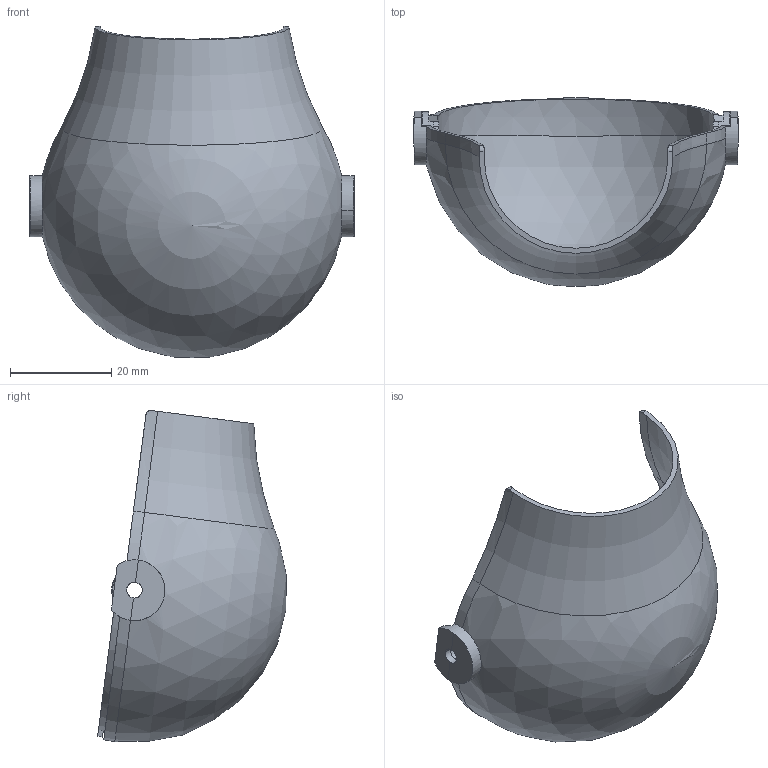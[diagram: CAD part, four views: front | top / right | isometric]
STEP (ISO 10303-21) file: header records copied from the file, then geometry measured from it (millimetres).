
FILE_DESCRIPTION(('FreeCAD Model'),'2;1');
FILE_NAME('Open CASCADE Shape Model','2024-08-30T09:50:01',( 'Lukas Balthasar Pank'),('Astera LED Technology GmbH'), 'Open CASCADE STEP processor 7.6','FreeCAD','Unknown');
FILE_SCHEMA(('AUTOMOTIVE_DESIGN { 1 0 10303 214 1 1 1 1 }'));
Length unit declared in the file: millimetre
Products named in the file (3): FP7-LSDF_LunaShade with Diffusor_3D-STEP; LunaShade Diffusion; LunaShade Body
Assembly tree (2 placements, depth 2):
  FP7-LSDF_LunaShade with Diffusor_3D-STEP
    LunaShade Diffusion
    LunaShade Body
Bounding box: 64 x 37.22 x 65.3 mm (x, y, z)
Volume: 10291 mm3; surface area: 20744.2 mm2
Topology: 2 solids, 2 shells, 95 faces, 277 edges, 181 vertices
Faces by surface type: plane 33, cylinder 28, sphere 14, torus 9, cone 8, bspline 3
Entity records: 3455 total; most frequent: CARTESIAN_POINT 814, DIRECTION 550, ORIENTED_EDGE 546, EDGE_CURVE 273, AXIS2_PLACEMENT_3D 234, VERTEX_POINT 181, CIRCLE 139, FACE_BOUND 102
